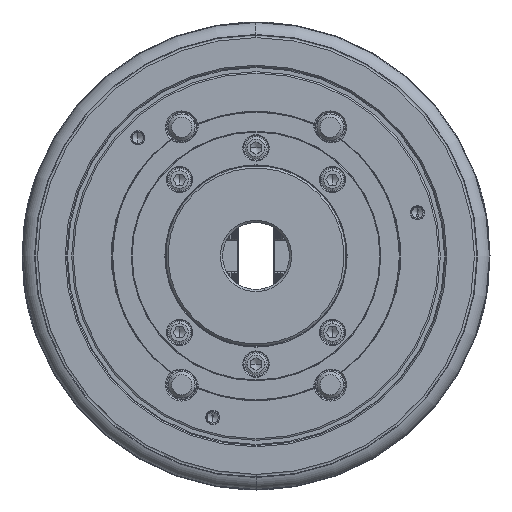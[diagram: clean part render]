
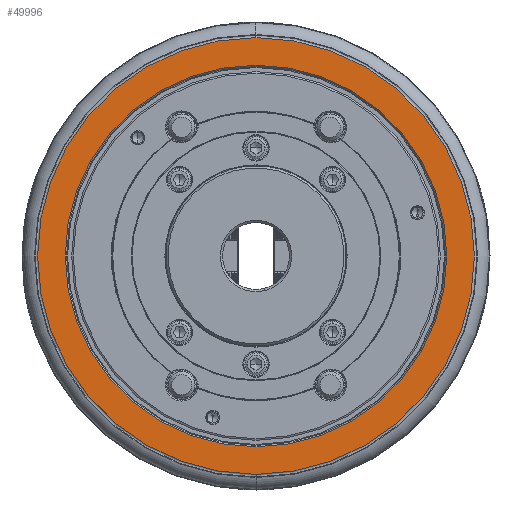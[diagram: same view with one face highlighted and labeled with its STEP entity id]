
A CAD part, left-side view. The second image highlights one B-rep face of the part: STEP entity #49996.
In plain terms, the highlighted planar face has unit normal (-1, 0, 0) as drawn and (0, 0, -1) by its records, which use the part's own axes.
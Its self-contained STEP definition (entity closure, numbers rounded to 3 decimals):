
#122 = DIRECTION ( 'NONE',  ( -1., 0., 0. ) ) ;
#815 = CARTESIAN_POINT ( 'NONE',  ( 0., 0., -91. ) ) ;
#1542 = CARTESIAN_POINT ( 'NONE',  ( -98., 0., -91. ) ) ;
#1836 = CARTESIAN_POINT ( 'NONE',  ( 0., 0., -91. ) ) ;
#3877 = AXIS2_PLACEMENT_3D ( 'NONE', #28467, #73083, #41183 ) ;
#4275 = EDGE_LOOP ( 'NONE', ( #50073, #40626 ) ) ;
#5617 = EDGE_CURVE ( 'NONE', #38443, #19373, #15521, .T. ) ;
#7858 = ORIENTED_EDGE ( 'NONE', *, *, #26143, .F. ) ;
#14762 = EDGE_CURVE ( 'NONE', #19373, #38443, #25659, .T. ) ;
#14860 = EDGE_LOOP ( 'NONE', ( #62852, #7858 ) ) ;
#14901 = DIRECTION ( 'NONE',  ( 0., 0., 1. ) ) ;
#15521 = CIRCLE ( 'NONE', #25968, 85.6 ) ;
#19373 = VERTEX_POINT ( 'NONE', #48198 ) ;
#23516 = CIRCLE ( 'NONE', #3877, 98. ) ;
#25659 = CIRCLE ( 'NONE', #71419, 85.6 ) ;
#25968 = AXIS2_PLACEMENT_3D ( 'NONE', #80556, #56346, #62892 ) ;
#26143 = EDGE_CURVE ( 'NONE', #58831, #38653, #23516, .T. ) ;
#28467 = CARTESIAN_POINT ( 'NONE',  ( 0., 0., -91. ) ) ;
#36941 = FACE_OUTER_BOUND ( 'NONE', #14860, .T. ) ;
#38443 = VERTEX_POINT ( 'NONE', #52876 ) ;
#38653 = VERTEX_POINT ( 'NONE', #53580 ) ;
#40626 = ORIENTED_EDGE ( 'NONE', *, *, #5617, .T. ) ;
#41183 = DIRECTION ( 'NONE',  ( 1., 0., 0. ) ) ;
#48198 = CARTESIAN_POINT ( 'NONE',  ( -85.6, 0., -91. ) ) ;
#49996 = ADVANCED_FACE ( 'NONE', ( #36941, #80358 ), #73811, .T. ) ;
#50073 = ORIENTED_EDGE ( 'NONE', *, *, #14762, .T. ) ;
#52876 = CARTESIAN_POINT ( 'NONE',  ( 85.6, 0., -91. ) ) ;
#53580 = CARTESIAN_POINT ( 'NONE',  ( 98., 0., -91. ) ) ;
#54435 = AXIS2_PLACEMENT_3D ( 'NONE', #815, #75683, #64606 ) ;
#55707 = CIRCLE ( 'NONE', #54435, 98. ) ;
#56166 = CARTESIAN_POINT ( 'NONE',  ( 85.6, 0., -91. ) ) ;
#56346 = DIRECTION ( 'NONE',  ( 0., 0., 1. ) ) ;
#58831 = VERTEX_POINT ( 'NONE', #1542 ) ;
#62852 = ORIENTED_EDGE ( 'NONE', *, *, #63279, .F. ) ;
#62892 = DIRECTION ( 'NONE',  ( 1., 0., 0. ) ) ;
#63279 = EDGE_CURVE ( 'NONE', #38653, #58831, #55707, .T. ) ;
#64606 = DIRECTION ( 'NONE',  ( 1., 0., 0. ) ) ;
#66444 = AXIS2_PLACEMENT_3D ( 'NONE', #56166, #68446, #122 ) ;
#68446 = DIRECTION ( 'NONE',  ( 0., 0., -1. ) ) ;
#71394 = DIRECTION ( 'NONE',  ( 1., 0., 0. ) ) ;
#71419 = AXIS2_PLACEMENT_3D ( 'NONE', #1836, #14901, #71394 ) ;
#73083 = DIRECTION ( 'NONE',  ( 0., 0., 1. ) ) ;
#73811 = PLANE ( 'NONE',  #66444 ) ;
#75683 = DIRECTION ( 'NONE',  ( 0., 0., 1. ) ) ;
#80358 = FACE_BOUND ( 'NONE', #4275, .T. ) ;
#80556 = CARTESIAN_POINT ( 'NONE',  ( 0., 0., -91. ) ) ;
